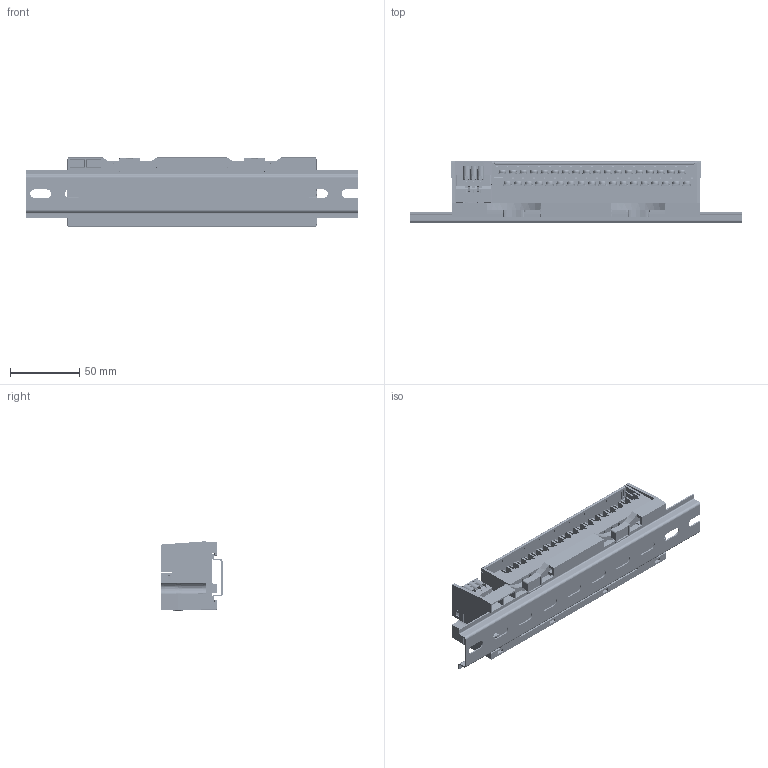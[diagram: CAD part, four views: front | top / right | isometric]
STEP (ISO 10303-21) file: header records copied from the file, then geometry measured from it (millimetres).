
FILE_DESCRIPTION((''),'2;1');
FILE_NAME('ADMI2B20760FFHL7_ASM','2023-08-04T12:00:06',('Administrator'),('yulong DESIGN'),'CREO PARAMETRIC BY PTC INC, 2021023','CREO PARAMETRIC BY PTC INC, 2021023','');
FILE_SCHEMA(('AUTOMOTIVE_DESIGN { 1 0 10303 214 1 1 1 1 }'));
Products named in the file (12): ADMI2B20760FFHL7_1; ADMI2B20760FFHL7_2; ADMI2B20760FFHL7_3; ADMI2B20760FFHL7_4; ADMI2B20760FFHL7_5; ADMI2B20760FFHL7_7; ADMI2B20760FFHL7_8; ADMI2B20760FFHL7_12; ADMI2B20760FFHL7_13; ADMI2B20760FFHL7_15; ADMI2B20760FFHL7_16; ADMI2B20760FFHL7_ASM
Assembly tree (11 placements, depth 2):
  ADMI2B20760FFHL7_ASM
    ADMI2B20760FFHL7_1
    ADMI2B20760FFHL7_2
    ADMI2B20760FFHL7_3
    ADMI2B20760FFHL7_4
    ADMI2B20760FFHL7_5
    ADMI2B20760FFHL7_7
    ADMI2B20760FFHL7_8
    ADMI2B20760FFHL7_12
    ADMI2B20760FFHL7_13
    ADMI2B20760FFHL7_15
    ADMI2B20760FFHL7_16
Bounding box: 240 x 44.3 x 50.02 mm (x, y, z)
Volume: 179226.5 mm3; surface area: 138428.6 mm2
Topology: 23 solids, 42 shells, 12045 faces, 32204 edges, 20010 vertices
Faces by surface type: plane 8830, cylinder 1811, bspline 952, torus 302, cone 123, sphere 25, extrusion 2
Entity records: 548781 total; most frequent: CARTESIAN_POINT 107518, ORIENTED_EDGE 63964, DIRECTION 56104, PRESENTATION_STYLE_ASSIGNMENT 35563, STYLED_ITEM 35550, EDGE_CURVE 32034, CURVE_STYLE 25531, VECTOR 24870
